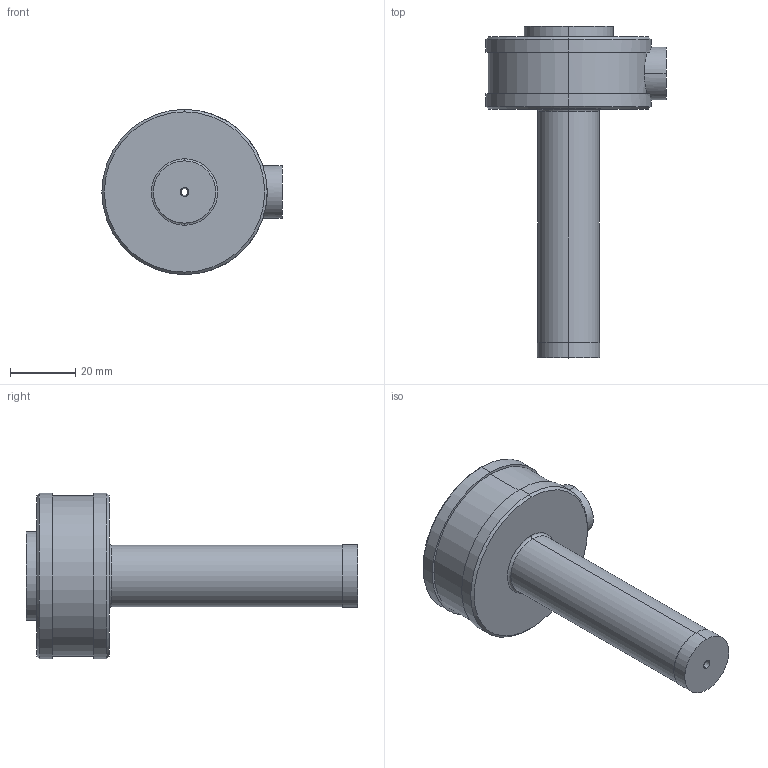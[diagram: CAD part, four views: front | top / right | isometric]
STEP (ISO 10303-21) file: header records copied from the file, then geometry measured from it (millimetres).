
FILE_DESCRIPTION (( 'STEP AP203' ), '1' );
FILE_NAME ('SB030025.STEP', '2009-05-05T18:28:01', ( 'Frank J. Eigler' ), ( 'DME' ), 'SwSTEP 2.0', 'SolidWorks 2009', '' );
FILE_SCHEMA (( 'CONFIG_CONTROL_DESIGN' ));
Length unit declared in the file: inch
Products named in the file (1): SB030025
Bounding box: 55.12 x 101.5 x 50.55 mm (x, y, z)
Volume: 64670.1 mm3; surface area: 14029.6 mm2
Topology: 1 solids, 1 shells, 37 faces, 92 edges, 58 vertices
Faces by surface type: cylinder 17, plane 8, cone 6, sphere 4, torus 2
Entity records: 1277 total; most frequent: CARTESIAN_POINT 278, DIRECTION 218, ORIENTED_EDGE 180, AXIS2_PLACEMENT_3D 96, EDGE_CURVE 90, VERTEX_POINT 58, CIRCLE 58, EDGE_LOOP 42
